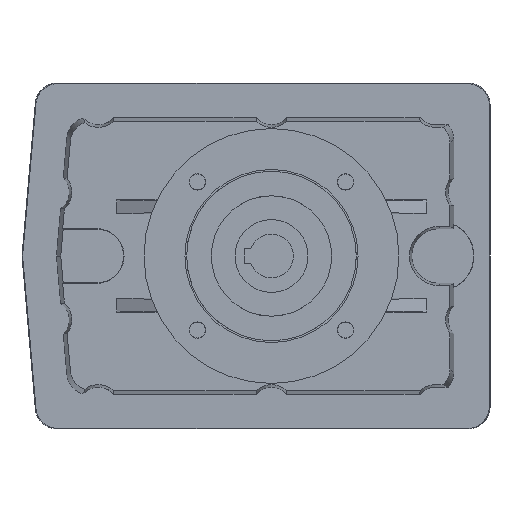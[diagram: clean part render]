
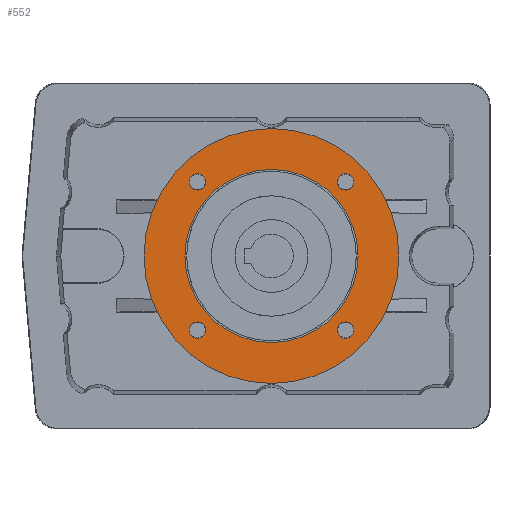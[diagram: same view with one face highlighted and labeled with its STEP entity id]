
A CAD part, left-side view. The second image highlights one B-rep face of the part: STEP entity #552.
In plain terms, the highlighted planar face has unit normal (-1, 0, 0).
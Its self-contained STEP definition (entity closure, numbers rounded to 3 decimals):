
#552 = ADVANCED_FACE( 'NONE', ( #1361, #1362, #1363, #1364, #1365, #1366 ), #1367, .T. );
#1361 = FACE_OUTER_BOUND( '', #2545, .T. );
#1362 = FACE_BOUND( '', #2546, .T. );
#1363 = FACE_BOUND( '', #2547, .T. );
#1364 = FACE_BOUND( '', #2548, .T. );
#1365 = FACE_BOUND( '', #2549, .T. );
#1366 = FACE_BOUND( '', #2550, .T. );
#1367 = PLANE( '', #2551 );
#2545 = EDGE_LOOP( '', ( #4225 ) );
#2546 = EDGE_LOOP( '', ( #4226 ) );
#2547 = EDGE_LOOP( '', ( #4227 ) );
#2548 = EDGE_LOOP( '', ( #4228 ) );
#2549 = EDGE_LOOP( '', ( #4229 ) );
#2550 = EDGE_LOOP( '', ( #4230 ) );
#2551 = AXIS2_PLACEMENT_3D( '', #4231, #4232, #4233 );
#4225 = ORIENTED_EDGE( '', *, *, #6881, .T. );
#4226 = ORIENTED_EDGE( '', *, *, #6882, .T. );
#4227 = ORIENTED_EDGE( '', *, *, #6603, .T. );
#4228 = ORIENTED_EDGE( '', *, *, #6883, .T. );
#4229 = ORIENTED_EDGE( '', *, *, #6884, .T. );
#4230 = ORIENTED_EDGE( '', *, *, #6885, .T. );
#4231 = CARTESIAN_POINT( '', ( -80.705, 125., 102.478 ) );
#4232 = DIRECTION( '', ( -1., 0., 0. ) );
#4233 = DIRECTION( '', ( 0., 0., 1. ) );
#6603 = EDGE_CURVE( 'NONE', #7932, #7932, #7933, .F. );
#6881 = EDGE_CURVE( 'NONE', #8377, #8377, #8378, .T. );
#6882 = EDGE_CURVE( 'NONE', #8379, #8379, #8380, .F. );
#6883 = EDGE_CURVE( 'NONE', #8381, #8381, #8382, .F. );
#6884 = EDGE_CURVE( 'NONE', #8383, #8383, #8384, .F. );
#6885 = EDGE_CURVE( 'NONE', #8385, #8385, #8386, .F. );
#7932 = VERTEX_POINT( '', #9845 );
#7933 = CIRCLE( '', #9846, 4.495 );
#8377 = VERTEX_POINT( '', #10562 );
#8378 = CIRCLE( '', #10563, 69.965 );
#8379 = VERTEX_POINT( '', #10564 );
#8380 = CIRCLE( '', #10565, 4.495 );
#8381 = VERTEX_POINT( '', #10566 );
#8382 = CIRCLE( '', #10567, 4.495 );
#8383 = VERTEX_POINT( '', #10568 );
#8384 = CIRCLE( '', #10569, 4.495 );
#8385 = VERTEX_POINT( '', #10570 );
#8386 = CIRCLE( '', #10571, 47.5 );
#9845 = CARTESIAN_POINT( '', ( -80.705, 60.659, 147.632 ) );
#9846 = AXIS2_PLACEMENT_3D( '', #12293, #12294, #12295 );
#10562 = CARTESIAN_POINT( '', ( -80.705, 20., 172.444 ) );
#10563 = AXIS2_PLACEMENT_3D( '', #12626, #12627, #12628 );
#10564 = CARTESIAN_POINT( '', ( -80.705, -20.659, 66.315 ) );
#10565 = AXIS2_PLACEMENT_3D( '', #12629, #12630, #12631 );
#10566 = CARTESIAN_POINT( '', ( -80.705, 60.659, 66.315 ) );
#10567 = AXIS2_PLACEMENT_3D( '', #12632, #12633, #12634 );
#10568 = CARTESIAN_POINT( '', ( -80.705, -20.659, 147.632 ) );
#10569 = AXIS2_PLACEMENT_3D( '', #12635, #12636, #12637 );
#10570 = CARTESIAN_POINT( '', ( -80.705, 20., 149.978 ) );
#10571 = AXIS2_PLACEMENT_3D( '', #12638, #12639, #12640 );
#12293 = CARTESIAN_POINT( '', ( -80.705, 60.659, 143.137 ) );
#12294 = DIRECTION( '', ( -1., 0., 0. ) );
#12295 = DIRECTION( '', ( 0., 0., 1. ) );
#12626 = CARTESIAN_POINT( '', ( -80.705, 20., 102.478 ) );
#12627 = DIRECTION( '', ( -1., 0., 0. ) );
#12628 = DIRECTION( '', ( 0., 0., 1. ) );
#12629 = CARTESIAN_POINT( '', ( -80.705, -20.659, 61.82 ) );
#12630 = DIRECTION( '', ( -1., 0., 0. ) );
#12631 = DIRECTION( '', ( 0., 0., 1. ) );
#12632 = CARTESIAN_POINT( '', ( -80.705, 60.659, 61.82 ) );
#12633 = DIRECTION( '', ( -1., 0., 0. ) );
#12634 = DIRECTION( '', ( 0., 0., 1. ) );
#12635 = CARTESIAN_POINT( '', ( -80.705, -20.659, 143.137 ) );
#12636 = DIRECTION( '', ( -1., 0., 0. ) );
#12637 = DIRECTION( '', ( 0., 0., 1. ) );
#12638 = CARTESIAN_POINT( '', ( -80.705, 20., 102.478 ) );
#12639 = DIRECTION( '', ( -1., 0., 0. ) );
#12640 = DIRECTION( '', ( 0., 0., 1. ) );
